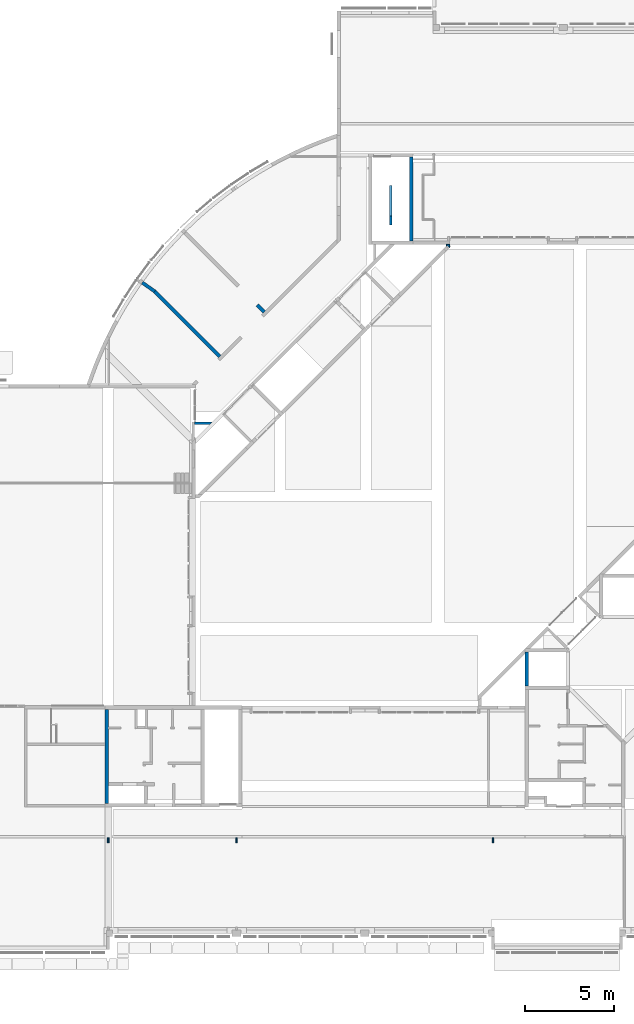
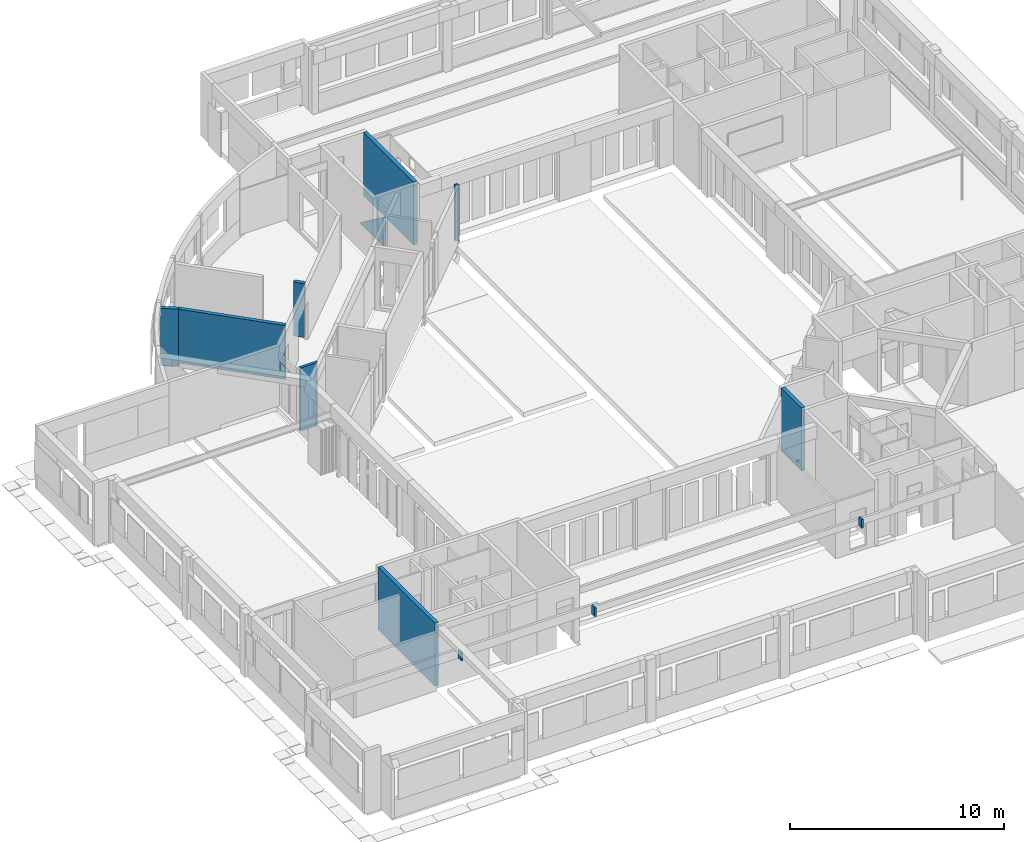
# One storey, part 23 of 30: 12 walls.
"""IFC4X3_ADD2 building model written with IfcOpenShell, lengths in millimetres."""

import ifcopenshell
import ifcopenshell.guid

model = None  # the IFC model being written
_history = None  # IfcOwnerHistory: only IFC2X3 demands one
_inside = {}  # id of a spatial element -> (the spatial element, [elements in it])
_under = {}  # id of a project, library or spatial element -> (it, [spatial elements below it])
_declared = {}  # id of a project -> (the project, [libraries it declares])
_typed = {}  # id of a type object -> (the type object, [elements of that type])
_made_of = {}  # id of a material, layer set ... -> (it, [elements and type objects made of it])


def new_model(schema):
    """Start an empty IFC model of exactly this schema.

    Asked for "IFC4X3", IfcOpenShell would pick the latest addendum, in which some entities
    have other attributes; the version numbers below select the first issue.
    IFC2X3 requires an IfcOwnerHistory on every rooted entity: one is made here for all.
    """
    global model, _history
    if schema == "IFC4X3":
        model = ifcopenshell.file(schema_version=(4, 3, 0, 0))
    else:
        model = ifcopenshell.file(schema=schema)
    _inside.clear()
    _under.clear()
    _declared.clear()
    _typed.clear()
    _made_of.clear()
    _history = None
    if model.schema == "IFC2X3":
        org = make("IfcOrganization", Name="unknown")
        user = make(
            "IfcPersonAndOrganization",
            ThePerson=make("IfcPerson", FamilyName="unknown"),
            TheOrganization=org,
        )
        app = make(
            "IfcApplication",
            ApplicationDeveloper=org,
            Version="unknown",
            ApplicationFullName="unknown",
            ApplicationIdentifier="unknown",
        )
        _history = make(
            "IfcOwnerHistory",
            OwningUser=user,
            OwningApplication=app,
            ChangeAction="ADDED",
            CreationDate=0,
        )
    return model


def make(cls, **values):
    """One entity of the class cls with the attributes given. An attribute that is None is left unset."""
    return model.create_entity(
        cls, **{name: value for name, value in values.items() if value is not None}
    )


def rooted(cls, **values):
    """An entity with a GlobalId (a new one), such as an element, a storey or a relation."""
    return make(cls, GlobalId=ifcopenshell.guid.new(), OwnerHistory=_history, **values)


def si_unit(unit_type, name, prefix=None):
    """IfcSIUnit, for example si_unit("LENGTHUNIT", "METRE", prefix="MILLI")."""
    return make("IfcSIUnit", UnitType=unit_type, Prefix=prefix, Name=name)


def assignment(units):
    """IfcUnitAssignment: the units of a project."""
    return None if units is None else make("IfcUnitAssignment", Units=units)


def point(xyz):
    """IfcCartesianPoint."""
    return None if xyz is None else make("IfcCartesianPoint", Coordinates=xyz)


def direction(xyz):
    """IfcDirection."""
    return None if xyz is None else make("IfcDirection", DirectionRatios=xyz)


def frame(location, z_axis=None, x_axis=None):
    """IfcAxis2Placement3D, a coordinate frame: its origin and axes. An axis left out is left unset."""
    return make(
        "IfcAxis2Placement3D",
        Location=point(location),
        Axis=direction(z_axis),
        RefDirection=direction(x_axis),
    )


def frame_2d(location, x_axis=None):
    """IfcAxis2Placement2D, a coordinate frame in the plane: its origin and x axis."""
    return make(
        "IfcAxis2Placement2D", Location=point(location), RefDirection=direction(x_axis)
    )


def origin_with_axes():
    """The frame at (0, 0, 0) with the z axis (0, 0, 1) and the x axis (1, 0, 0) written out."""
    return frame((0.0, 0.0, 0.0), z_axis=(0.0, 0.0, 1.0), x_axis=(1.0, 0.0, 0.0))


def origin_2d_with_axis():
    """The frame at (0, 0) in the plane with the x axis (1, 0) written out."""
    return frame_2d((0.0, 0.0), x_axis=(1.0, 0.0))


def place(relative_to, where):
    """IfcLocalPlacement: puts the frame where relative to a parent placement (None: the world)."""
    return make(
        "IfcLocalPlacement", PlacementRelTo=relative_to, RelativePlacement=where
    )


def context(
    kind, dimensions, precision=None, world=None, true_north=None, identifier=None
):
    """IfcGeometricRepresentationContext, for example the 3D "Model" context."""
    return make(
        "IfcGeometricRepresentationContext",
        ContextIdentifier=identifier,
        ContextType=kind,
        CoordinateSpaceDimension=dimensions,
        Precision=precision,
        WorldCoordinateSystem=world,
        TrueNorth=true_north,
    )


def subcontext(parent, identifier, kind, view, scale=None):
    """IfcGeometricRepresentationSubContext, for example "Body" below "Model"."""
    return make(
        "IfcGeometricRepresentationSubContext",
        ContextIdentifier=identifier,
        ContextType=kind,
        ParentContext=parent,
        TargetScale=scale,
        TargetView=view,
    )


def project(units=None, contexts=None):
    """IfcProject with its units and contexts."""
    return rooted(
        "IfcProject",
        Name="project",
        RepresentationContexts=contexts,
        UnitsInContext=assignment(units),
    )


def spatial(cls, under=None, at=None, **own):
    """A site, building, storey or space (cls), placed at a placement, below another one or the project."""
    s = rooted(cls, ObjectPlacement=at, **own)
    if under is not None:
        _under.setdefault(under.id(), (under, []))[1].append(s)
    return s


def polyline(points):
    """IfcPolyline through the points."""
    return make("IfcPolyline", Points=[point(p) for p in points])


def point_list(points):
    """IfcCartesianPointList2D or 3D."""
    cls = (
        "IfcCartesianPointList2D" if len(points[0]) == 2 else "IfcCartesianPointList3D"
    )
    return make(cls, CoordList=points)


def profile(cls, at=None, kind="AREA", **sizes):
    """A parametric profile (cls). Its sizes go by their IFC names, for example OverallWidth=200.0."""
    return make(cls, ProfileType=kind, Position=at, **sizes)


def rectangle(**sizes):
    """IfcRectangleProfileDef."""
    return profile("IfcRectangleProfileDef", **sizes)


def outline(outer, holes=None, kind="AREA"):
    """IfcArbitraryClosedProfileDef: a profile drawn as a closed curve; with holes, ...WithVoids."""
    if holes is None:
        return make("IfcArbitraryClosedProfileDef", ProfileType=kind, OuterCurve=outer)
    return make(
        "IfcArbitraryProfileDefWithVoids",
        ProfileType=kind,
        OuterCurve=outer,
        InnerCurves=holes,
    )


def extrude(swept, where, along, depth):
    """IfcExtrudedAreaSolid: the profile swept, set in the frame where, extruded along a direction by depth."""
    return make(
        "IfcExtrudedAreaSolid",
        SweptArea=swept,
        Position=where,
        ExtrudedDirection=direction(along),
        Depth=depth,
    )


def polygons(points, faces, closed=None, point_numbers=None):
    """IfcPolygonalFaceSet: a face is its outer loop, then its inner loops; points numbered from 1."""
    made = []
    for loops in faces:
        if len(loops) == 1:
            made.append(make("IfcIndexedPolygonalFace", CoordIndex=loops[0]))
        else:
            made.append(
                make(
                    "IfcIndexedPolygonalFaceWithVoids",
                    CoordIndex=loops[0],
                    InnerCoordIndices=loops[1:],
                )
            )
    return make(
        "IfcPolygonalFaceSet",
        Coordinates=point_list(points),
        Closed=closed,
        Faces=made,
        PnIndex=point_numbers,
    )


def shape(context_of_items, identifier, shape_type, items):
    """IfcShapeRepresentation: the items that make up one representation, for example the "Body"."""
    return make(
        "IfcShapeRepresentation",
        ContextOfItems=context_of_items,
        RepresentationIdentifier=identifier,
        RepresentationType=shape_type,
        Items=items,
    )


def source(mapping_origin, context_of_items, identifier, shape_type, items):
    """IfcRepresentationMap: a shape defined once, which mapped items show again and again."""
    return make(
        "IfcRepresentationMap",
        MappingOrigin=mapping_origin,
        MappedRepresentation=shape(context_of_items, identifier, shape_type, items),
    )


def transform(
    local_origin,
    x_axis=None,
    y_axis=None,
    z_axis=None,
    scale=None,
    scale2=None,
    scale3=None,
    uniform=True,
):
    """IfcCartesianTransformationOperator3D, or its non-uniform kind. x_axis, y_axis, z_axis: its Axis1, 2, 3."""
    if uniform:
        return make(
            "IfcCartesianTransformationOperator3D",
            Axis1=direction(x_axis),
            Axis2=direction(y_axis),
            LocalOrigin=point(local_origin),
            Scale=scale,
            Axis3=direction(z_axis),
        )
    return make(
        "IfcCartesianTransformationOperator3DnonUniform",
        Axis1=direction(x_axis),
        Axis2=direction(y_axis),
        LocalOrigin=point(local_origin),
        Scale=scale,
        Axis3=direction(z_axis),
        Scale2=scale2,
        Scale3=scale3,
    )


def mapped(mapping_source, mapping_target):
    """IfcMappedItem: shows the shape of a source again, moved by a transform."""
    return make(
        "IfcMappedItem", MappingSource=mapping_source, MappingTarget=mapping_target
    )


def made_of(thing, what):
    """Note that an element or type object is made of a material, layer set ...; save() writes the relation."""
    if what is not None:
        _made_of.setdefault(what.id(), (what, []))[1].append(thing)
    return thing


def type_object(cls, material=None, **own):
    """A type object (cls), such as IfcWallType, which elements share."""
    return made_of(rooted(cls, **own), material)


def type_shapes(of_type, sources):
    """Give a type object the sources (RepresentationMaps) that its elements show as mapped items."""
    of_type.RepresentationMaps = sources


def element(
    cls,
    number,
    at=None,
    inside=None,
    cuts=None,
    type_object=None,
    material=None,
    context=None,
    identifier="Body",
    shape_type=None,
    held_by="IfcProductDefinitionShape",
    body=None,
    shapes=None,
    **own,
):
    """One element of the class cls, such as IfcWall. Its Tag is "e" and its number.

    at: its placement. inside: the storey or other place that contains it. cuts: it is an
    opening in that element (IfcRelVoidsElement). A single representation is given by context,
    identifier, shape_type and body (its items); several are given by shapes. held_by: the class
    of the entity that holds the representations. save() writes the other relations.
    """
    e = rooted(cls, Tag="e%d" % number, ObjectPlacement=at, **own)
    if body is not None:
        shapes = [shape(context, identifier, shape_type, body)]
    if shapes is not None:
        e.Representation = make(held_by, Representations=shapes)
    if inside is not None:
        _inside.setdefault(inside.id(), (inside, []))[1].append(e)
    if cuts is not None:
        rooted(
            "IfcRelVoidsElement", RelatingBuildingElement=cuts, RelatedOpeningElement=e
        )
    if type_object is not None:
        _typed.setdefault(type_object.id(), (type_object, []))[1].append(e)
    return made_of(e, material)


def aggregate(whole, parts):
    """IfcRelAggregates: a whole, such as a stair, and the parts it consists of."""
    return rooted("IfcRelAggregates", RelatingObject=whole, RelatedObjects=parts)


def save(model, path):
    """Write the relations noted so far, then the file.

    IfcRelAggregates (storeys below a building ...), IfcRelContainedInSpatialStructure (elements
    in a storey), IfcRelDefinesByType, IfcRelAssociatesMaterial and IfcRelDeclares: one each for
    every whole, place, type object, material and project.
    """
    for whole, parts in _under.values():
        aggregate(whole, parts)
    for where, things in _inside.values():
        rooted(
            "IfcRelContainedInSpatialStructure",
            RelatedElements=things,
            RelatingStructure=where,
        )
    for kind, things in _typed.values():
        rooted("IfcRelDefinesByType", RelatedObjects=things, RelatingType=kind)
    for what, things in _made_of.values():
        rooted("IfcRelAssociatesMaterial", RelatedObjects=things, RelatingMaterial=what)
    for by, libraries in _declared.values():
        rooted("IfcRelDeclares", RelatingContext=by, RelatedDefinitions=libraries)
    model.write(path)


model = new_model("IFC4X3_ADD2")

# Units and contexts
model_context = context("Model", 3, precision=1e-05, world=origin_with_axes(), true_north=direction((0.0, 1.0)))
body_context = subcontext(model_context, "Body", "Model", "MODEL_VIEW")
ifc_project = project(units=[si_unit("LENGTHUNIT", "METRE", prefix="MILLI"), si_unit("AREAUNIT", "SQUARE_METRE"), si_unit("VOLUMEUNIT", "CUBIC_METRE"), si_unit("PLANEANGLEUNIT", "RADIAN"), si_unit("TIMEUNIT", "SECOND"), si_unit("MASSUNIT", "GRAM")], contexts=[model_context])

# Site, building, storey
site_placement = place(None, origin_with_axes())
site = spatial("IfcSite", under=ifc_project, at=site_placement, Name="Site", CompositionType="ELEMENT")
building_placement = place(site_placement, origin_with_axes())
building = spatial("IfcBuilding", under=site, at=building_placement, Name="IFC Building Story")
storey_placement = place(building_placement, origin_with_axes())
storey = spatial("IfcBuildingStorey", under=building, at=storey_placement, Name="000", Elevation=0.0)

# Walls
wall_type_1 = type_object("IfcWallType", Name="Basic Wall_BB_10.01.41#01_Gipskartonwand_MS100 _ 25.50.25_ 100 mm", PredefinedType="NOTDEFINED")
shared_shape_1 = source(origin_with_axes(), body_context, "Body", "SweptSolid", [
    extrude(rectangle(XDim=274.999999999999, YDim=12.50000000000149, at=origin_2d_with_axis()), frame((137.4999999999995, 43.75000000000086, 0.0), z_axis=(0.0, 0.0, 1.0), x_axis=(1.0, 0.0, 0.0)), (0.0, 0.0, 1.0), 500.000000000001),
    extrude(outline(polyline([(-187.4999999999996, -213.3333333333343), (-187.4999999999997, 286.6666666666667), (100.0, 286.6666666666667), (100.0, -73.3333333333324), (87.49999999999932, -73.3333333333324), (87.49999999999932, -213.3333333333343), (-187.4999999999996, -213.3333333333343)])), frame((187.4999999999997, 24.9999999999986, 286.6666666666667), z_axis=(0.0, 1.0, 0.0), x_axis=(1.0, 0.0, 0.0)), (0.0, 0.0, 1.0), 12.5000000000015),
    extrude(outline(polyline([(-191.6666666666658, -213.3333333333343), (-191.6666666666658, 286.6666666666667), (108.3333333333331, 286.6666666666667), (108.3333333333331, -73.3333333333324), (83.33333333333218, -73.3333333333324), (83.33333333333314, -213.3333333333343), (-191.6666666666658, -213.3333333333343)])), frame((191.6666666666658, -24.9999999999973, 286.6666666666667), z_axis=(0.0, 1.0, 0.0), x_axis=(1.0, 0.0, 0.0)), (0.0, 0.0, 1.0), 49.9999999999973),
    extrude(rectangle(XDim=274.999999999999, YDim=12.50000000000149, at=origin_2d_with_axis()), frame((137.4999999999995, -31.24999999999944, 0.0), z_axis=(0.0, 0.0, 1.0), x_axis=(1.0, 0.0, 0.0)), (0.0, 0.0, 1.0), 500.000000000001),
    extrude(rectangle(XDim=274.999999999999, YDim=12.49999999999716, at=origin_2d_with_axis()), frame((137.4999999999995, -43.7499999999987, 0.0), z_axis=(0.0, 0.0, 1.0), x_axis=(1.0, 0.0, 0.0)), (0.0, 0.0, 1.0), 500.000000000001),
])
type_shapes(wall_type_1, [shared_shape_1])
wall_1_placement = place(storey_placement, frame((-21900.0, 5000.0, 2640.0), z_axis=(0.0, 0.0, 1.0), x_axis=(0.0, 1.0, 0.0)))
element("IfcWall", 1, at=wall_1_placement, inside=storey, type_object=wall_type_1, Name="Basic Wall:BB_10.01.41#01_Gipskartonwand_MS100 / 25.50.25, 100 mm", ObjectType="Basic Wall:BB_10.01.41#01_Gipskartonwand_MS100 / 25.50.25, 100 mm", PredefinedType="PARTITIONING", context=body_context, shape_type="MappedRepresentation", body=[
    mapped(shared_shape_1, transform((0.0, 0.0, 0.0))),
])
wall_type_2 = type_object("IfcWallType", Name="Basic Wall_BB_10.01.41#01_Gipskartonwand_MS100 _ 25.50.25_ 100 mm1", PredefinedType="NOTDEFINED")
shared_shape_2 = source(origin_with_axes(), body_context, "Body", "SweptSolid", [
    extrude(rectangle(XDim=274.999999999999, YDim=12.50000000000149, at=origin_2d_with_axis()), frame((137.4999999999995, 43.75000000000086, 0.0), z_axis=(0.0, 0.0, 1.0), x_axis=(1.0, 0.0, 0.0)), (0.0, 0.0, 1.0), 500.000000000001),
    extrude(rectangle(XDim=287.5, YDim=12.50000000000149, at=origin_2d_with_axis()), frame((143.75, 31.24999999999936, 0.0), z_axis=(0.0, 0.0, 1.0), x_axis=(1.0, 0.0, 0.0)), (0.0, 0.0, 1.0), 500.000000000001),
    extrude(rectangle(XDim=299.999999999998, YDim=49.9999999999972, at=origin_2d_with_axis()), frame((150.0, 0.0, 0.0), z_axis=(0.0, 0.0, 1.0), x_axis=(1.0, 0.0, 0.0)), (0.0, 0.0, 1.0), 500.000000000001),
    extrude(rectangle(XDim=274.999999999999, YDim=12.50000000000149, at=origin_2d_with_axis()), frame((137.4999999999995, -31.24999999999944, 0.0), z_axis=(0.0, 0.0, 1.0), x_axis=(1.0, 0.0, 0.0)), (0.0, 0.0, 1.0), 500.000000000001),
    extrude(rectangle(XDim=274.999999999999, YDim=12.49999999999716, at=origin_2d_with_axis()), frame((137.4999999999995, -43.7499999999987, 0.0), z_axis=(0.0, 0.0, 1.0), x_axis=(1.0, 0.0, 0.0)), (0.0, 0.0, 1.0), 500.000000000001),
])
type_shapes(wall_type_2, [shared_shape_2])
wall_2_placement = place(storey_placement, frame((-36300.0, 5000.0, 2640.0), z_axis=(0.0, 0.0, 1.0), x_axis=(0.0, 1.0, 0.0)))
element("IfcWall", 2, at=wall_2_placement, inside=storey, type_object=wall_type_2, Name="Basic Wall:BB_10.01.41#01_Gipskartonwand_MS100 / 25.50.25, 100 mm", ObjectType="Basic Wall:BB_10.01.41#01_Gipskartonwand_MS100 / 25.50.25, 100 mm", PredefinedType="PARTITIONING", context=body_context, shape_type="MappedRepresentation", body=[
    mapped(shared_shape_2, transform((0.0, 0.0, 0.0))),
])
wall_type_3 = type_object("IfcWallType", Name="Basic Wall_BB_10.01.41#01_Gipskartonwand_MS100 _ 25.50.25_ 100 mm7", PredefinedType="NOTDEFINED")
shared_shape_3 = source(origin_with_axes(), body_context, "Body", "SweptSolid", [
    extrude(rectangle(XDim=274.999999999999, YDim=12.49999999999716, at=origin_2d_with_axis()), frame((137.4999999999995, 43.75000000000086, 0.0), z_axis=(0.0, 0.0, 1.0), x_axis=(1.0, 0.0, 0.0)), (0.0, 0.0, 1.0), 460.0),
    extrude(rectangle(XDim=287.5, YDim=12.49999999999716, at=origin_2d_with_axis()), frame((143.75, 31.24999999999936, 0.0), z_axis=(0.0, 0.0, 1.0), x_axis=(1.0, 0.0, 0.0)), (0.0, 0.0, 1.0), 460.0),
    extrude(rectangle(XDim=299.999999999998, YDim=50.000000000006, at=origin_2d_with_axis()), frame((150.0, 0.0, 0.0), z_axis=(0.0, 0.0, 1.0), x_axis=(1.0, 0.0, 0.0)), (0.0, 0.0, 1.0), 460.0),
    extrude(rectangle(XDim=274.999999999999, YDim=12.49999999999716, at=origin_2d_with_axis()), frame((137.4999999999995, -31.24999999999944, 0.0), z_axis=(0.0, 0.0, 1.0), x_axis=(1.0, 0.0, 0.0)), (0.0, 0.0, 1.0), 460.0),
    extrude(rectangle(XDim=274.999999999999, YDim=12.50000000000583, at=origin_2d_with_axis()), frame((137.4999999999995, -43.7499999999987, 0.0), z_axis=(0.0, 0.0, 1.0), x_axis=(1.0, 0.0, 0.0)), (0.0, 0.0, 1.0), 460.0),
])
type_shapes(wall_type_3, [shared_shape_3])
wall_3_placement = place(storey_placement, frame((-43500.0, 5000.0, 2640.0), z_axis=(0.0, 0.0, 1.0), x_axis=(0.0, 1.0, 0.0)))
element("IfcWall", 3, at=wall_3_placement, inside=storey, type_object=wall_type_3, Name="Basic Wall:BB_10.01.41#01_Gipskartonwand_MS100 / 25.50.25, 100 mm", ObjectType="Basic Wall:BB_10.01.41#01_Gipskartonwand_MS100 / 25.50.25, 100 mm", PredefinedType="PARTITIONING", context=body_context, shape_type="MappedRepresentation", body=[
    mapped(shared_shape_3, transform((0.0, 0.0, 0.0))),
])
wall_4_placement = place(storey_placement, origin_with_axes())
element("IfcWall", 4, at=wall_4_placement, inside=storey, Name="Basic Wall:BB_XX_Wand uit beton, 200 mm", ObjectType="Basic Wall:BB_XX_Wand uit beton, 200 mm", PredefinedType="SOLIDWALL", context=body_context, shape_type="Tessellation", body=[
    polygons([(-43500.00000000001, 7200.0, 3520.0), (-43500.00000000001, 7200.0, -79.99999999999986), (-43500.00000000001, 12500.00406588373, -79.99999999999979), (-43500.00000000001, 12500.00406588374, 3520.0), (-43700.00000000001, 7200.0, -79.99999999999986), (-43700.00000000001, 7199.999999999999, 3140.0), (-43700.00000000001, 7200.0, 3520.0), (-43700.00000000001, 12500.00406588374, 3520.0), (-43700.00000000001, 12500.00406588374, -79.99999999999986)], [[[1, 2, 3, 4]], [[6, 7, 8]], [[8, 9, 5]], [[8, 5, 6]], [[2, 5, 9, 3]], [[7, 1, 4, 8]], [[6, 5, 2]], [[6, 2, 1]], [[1, 7, 6]], [[4, 3, 9, 8]]]),
])
wall_5_placement = place(storey_placement, origin_with_axes())
element("IfcWall", 5, at=wall_5_placement, inside=storey, Name="Basic Wall:BB_XX_Wand uit beton, 200 mm", ObjectType="Basic Wall:BB_XX_Wand uit beton, 200 mm", PredefinedType="SOLIDWALL", context=body_context, shape_type="Tessellation", body=[
    polygons([(-26600.0, 43500.0, 3520.0), (-26600.0, 43500.0, -79.99999999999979), (-26600.00000000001, 38799.99593411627, -79.99999999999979), (-26600.00000000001, 38799.99593411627, 3520.0), (-26400.0, 43500.0, -79.99999999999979), (-26400.0, 43500.0, 3520.0), (-26400.0, 38799.99593411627, 3520.0), (-26400.0, 38799.99593411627, -79.99999999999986)], [[[1, 2, 3, 4]], [[5, 6, 7, 8]], [[2, 5, 8, 3]], [[6, 1, 4, 7]], [[4, 3, 8, 7]], [[2, 1, 6, 5]]]),
])
wall_6_placement = place(storey_placement, origin_with_axes())
element("IfcWall", 6, at=wall_6_placement, inside=storey, Name="Basic Wall:BB_XX_Wand uit beton, 200 mm", ObjectType="Basic Wall:BB_XX_Wand uit beton, 200 mm", PredefinedType="SOLIDWALL", context=body_context, shape_type="Tessellation", body=[
    polygons([(-19900.0, 13815.0, 3520.0), (-19900.0, 13815.0, -79.99999999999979), (-19900.0, 15714.99999999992, -79.99999999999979), (-19900.0, 15714.99999999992, 3520.0), (-20100.0, 13815.0, -79.99999999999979), (-20100.0, 13815.0, 3520.0), (-20100.0, 15714.99999999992, 3520.0), (-20100.0, 15714.99999999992, -79.99999999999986)], [[[1, 2, 3, 4]], [[5, 6, 7, 8]], [[2, 5, 8, 3]], [[6, 1, 4, 7]], [[5, 2, 1, 6]], [[4, 3, 8, 7]]]),
])
wall_7_placement = place(storey_placement, origin_with_axes())
element("IfcWall", 7, at=wall_7_placement, inside=storey, Name="Basic Wall:BB_XX_Wand uit metselwerk, 140 mm", ObjectType="Basic Wall:BB_XX_Wand uit metselwerk, 140 mm", PredefinedType="SOLIDWALL", context=body_context, shape_type="Tessellation", body=[
    polygons([(-38655.0, 28484.0, 3400.0), (-38655.0, 28484.0, -200.0), (-37811.83694395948, 28484.0, -200.0), (-37811.83694395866, 28484.0, 3400.0), (-38655.0, 28624.0, -200.0), (-38655.0, 28624.0, 3400.0), (-37671.83694395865, 28624.0, 3400.0), (-37671.83694395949, 28624.0, -200.0)], [[[1, 2, 3, 4]], [[5, 6, 7, 8]], [[2, 5, 8, 3]], [[6, 1, 4, 7]], [[2, 1, 6, 5]], [[3, 8, 7, 4]]]),
])
wall_8_placement = place(storey_placement, origin_with_axes())
element("IfcWall", 8, at=wall_8_placement, inside=storey, Name="Basic Wall:BB_XX_Wand uit metselwerk, 140 mm", ObjectType="Basic Wall:BB_XX_Wand uit metselwerk, 140 mm", PredefinedType="SOLIDWALL", context=body_context, shape_type="Tessellation", body=[
    polygons([(-27580.0, 39699.9959341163, -280.0), (-27580.0, 41906.66666666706, -279.9999999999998), (-27580.0, 39699.9959341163, 1375.00304941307), (-27720.0, 39699.9959341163, -280.0), (-27720.0, 39699.9959341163, 1375.00304941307), (-27720.0, 41906.66666666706, -279.9999999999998)], [[[1, 2, 3]], [[4, 5, 6]], [[2, 1, 4, 6]], [[1, 3, 5, 4]], [[3, 2, 6, 5]]]),
])
wall_9_placement = place(storey_placement, origin_with_axes())
element("IfcWall", 9, at=wall_9_placement, inside=storey, Name="Basic Wall:BB_03.09.24#05_Wand uit metselwerk_EI60, 190 mm", ObjectType="Basic Wall:BB_03.09.24#05_Wand uit metselwerk_EI60, 190 mm", PredefinedType="SOLIDWALL", context=body_context, shape_type="Tessellation", body=[
    polygons([(-40835.16859362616, 36037.89122274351, 3070.0), (-37179.97382196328, 32382.69645108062, 3070.0), (-37179.97382196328, 32382.69645108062, -10.0), (-40835.16859362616, 36037.89122274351, -10.0), (-37314.32411038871, 32248.34616265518, 3070.0), (-40957.76475487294, 35891.78680713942, 3070.0), (-40957.76475487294, 35891.78680713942, -10.0), (-37314.32411038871, 32248.34616265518, -10.0)], [[[1, 2, 3, 4]], [[5, 6, 7, 8]], [[2, 1, 6, 5]], [[6, 1, 4, 7]], [[4, 3, 8, 7]], [[2, 5, 8, 3]]]),
])
wall_10_placement = place(storey_placement, origin_with_axes())
element("IfcWall", 10, at=wall_10_placement, inside=storey, Name="Basic Wall:BB_03.09.24#05_Wand uit metselwerk_EI60, 190 mm", ObjectType="Basic Wall:BB_03.09.24#05_Wand uit metselwerk_EI60, 190 mm", PredefinedType="SOLIDWALL", context=body_context, shape_type="Tessellation", body=[
    polygons([(-40957.76475487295, 35891.7868071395, -200.0), (-40957.76475487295, 35891.7868071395, 3070.0), (-41649.57949643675, 36376.20070422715, 3070.0), (-41649.57949643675, 36376.20070422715, -200.0), (-40835.16859362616, 36037.8912227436, 3070.0), (-40835.16859362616, 36037.8912227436, -200.0), (-41540.59997353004, 36531.83959264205, -200.0), (-41540.59997353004, 36531.83959264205, 3070.0)], [[[1, 2, 3, 4]], [[5, 6, 7, 8]], [[6, 1, 4, 7]], [[2, 5, 8, 3]], [[2, 1, 6, 5]], [[4, 3, 8, 7]]]),
])
wall_11_placement = place(storey_placement, origin_with_axes())
element("IfcWall", 11, at=wall_11_placement, inside=storey, Name="Basic Wall:BB_03.09.24#03_Wand uit metselwerk, 190 mm", ObjectType="Basic Wall:BB_03.09.24#03_Wand uit metselwerk, 190 mm", PredefinedType="SOLIDWALL", context=body_context, shape_type="Tessellation", body=[
    polygons([(-34819.08265459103, 34743.58761845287, 3070.0), (-35207.99138424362, 35132.49634810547, 3070.0), (-35207.99138424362, 35132.49634810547, -10.0), (-34819.08265459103, 34743.58761845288, -10.0), (-35073.64109581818, 35266.84663653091, 3070.0), (-34684.73236616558, 34877.93790687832, 3070.0), (-34684.73236616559, 34877.93790687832, -10.0), (-35073.64109581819, 35266.84663653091, -10.0)], [[[1, 2, 3, 4]], [[5, 6, 7, 8]], [[2, 1, 6, 5]], [[2, 5, 8, 3]], [[4, 3, 8, 7]], [[6, 1, 4, 7]]]),
])
wall_12_placement = place(storey_placement, origin_with_axes())
element("IfcWall", 12, at=wall_12_placement, inside=storey, Name="Basic Wall:BB_03.09.24#05_Wand uit metselwerk_EI60, 190 mm", ObjectType="Basic Wall:BB_03.09.24#05_Wand uit metselwerk_EI60, 190 mm", PredefinedType="SOLIDWALL", context=body_context, shape_type="Tessellation", body=[
    polygons([(-24345.0, 38604.99593411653, -399.9999999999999), (-24345.0, 38604.99593411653, 2799.99999999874), (-24345.0, 38418.44509833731, 2799.99999999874), (-24345.0, 38418.44509833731, -399.9999999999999), (-24535.0, 38604.99593411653, 2799.99999999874), (-24535.0, 38604.99593411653, -399.9999999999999), (-24535.0, 38494.00361489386, -399.9999999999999), (-24535.0, 38494.00361489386, 2799.99999999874), (-24477.77925827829, 38551.22435661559, -399.9999999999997), (-24477.77925827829, 38551.22435661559, 2799.99999999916)], [[[1, 2, 3, 4]], [[5, 6, 7, 8]], [[9, 7, 6]], [[9, 6, 1]], [[1, 4, 9]], [[10, 3, 2]], [[2, 5, 10]], [[5, 8, 10]], [[2, 1, 6, 5]], [[9, 10, 8, 7]], [[10, 9, 4, 3]]]),
])

save(model, "model.ifc")
